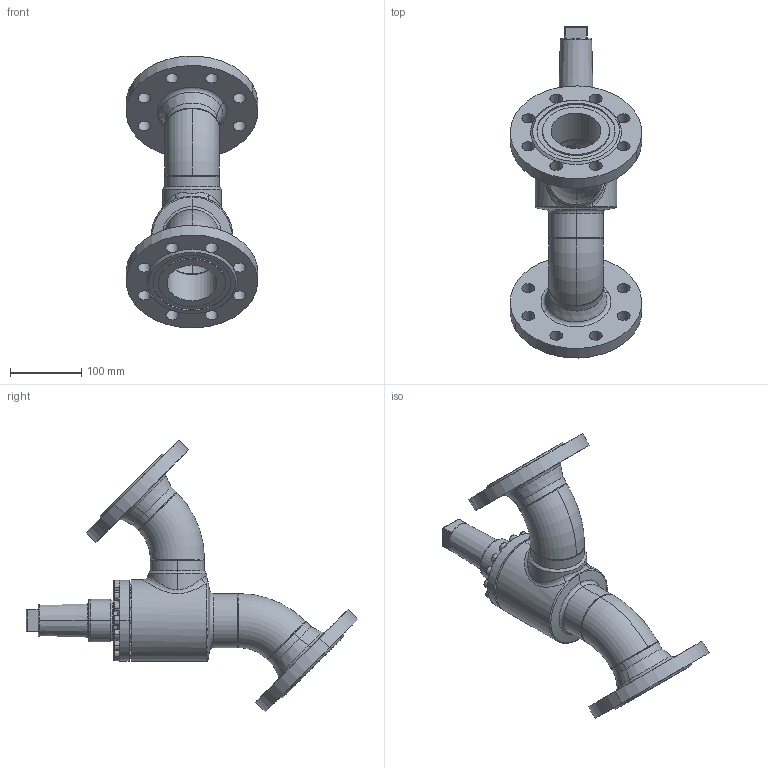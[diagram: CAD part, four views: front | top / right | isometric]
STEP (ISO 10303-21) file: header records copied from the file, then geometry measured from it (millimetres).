
FILE_DESCRIPTION (( 'STEP AP214' ), '1' );
FILE_NAME ('HRAR22320D17-DN065_DIN-FL-N_PS40.STEP', '2006-04-27T12:56:56', ( 'Herr Grams' ), ( 'AWP GmbH' ), 'SwSTEP 2.0', 'SolidWorks 2002296', '' );
FILE_SCHEMA (( 'AUTOMOTIVE_DESIGN' ));
Length unit declared in the file: millimetre
Products named in the file (14): HRAR22320D17-DN065_DIN-FL-N_PS40; Kappe16402_DN040-65_Standard; AVR26300K17_Deck+Schr-DN65_Standard; Deckel26300K17-DN65_Standard; Zylinderschraube-DIN912_M 8x 25; Gehäuse-kpl16320-DN065_DIN_PS40_Standard; Gehäuse-kpl16300-DN065_R1_Standard; Gehäuse16400-DN065_Standard; Rohrbogen 45°_Rohrbogen-DN065-45°; bead-DN065-2_Standard; bead-DN065-3_Standard; Flansch-DIN-Nut_PS40_DIN-Flansch-DN065_PS40-Nut; bead-DN065-6_Standard; bead-DN065-7_Standard
Assembly tree (30 placements, depth 4):
  HRAR22320D17-DN065_DIN-FL-N_PS40
    Kappe16402_DN040-65_Standard
    Gehäuse-kpl16320-DN065_DIN_PS40_Standard
      Flansch-DIN-Nut_PS40_DIN-Flansch-DN065_PS40-Nut  x2
      bead-DN065-6_Standard
      Gehäuse-kpl16300-DN065_R1_Standard
        Rohrbogen 45°_Rohrbogen-DN065-45°  x2
        bead-DN065-2_Standard
        Gehäuse16400-DN065_Standard
        bead-DN065-3_Standard
      bead-DN065-7_Standard
    AVR26300K17_Deck+Schr-DN65_Standard
      Zylinderschraube-DIN912_M 8x 25  x16
      Deckel26300K17-DN65_Standard
Bounding box: 184.82 x 466.88 x 382.4 mm (x, y, z)
Volume: 1930008 mm3; surface area: 455027.2 mm2
Topology: 27 solids, 27 shells, 558 faces, 1284 edges, 818 vertices
Faces by surface type: plane 215, cylinder 206, cone 60, torus 59, bspline 18
Entity records: 20118 total; most frequent: CARTESIAN_POINT 13359, DIRECTION 1322, ORIENTED_EDGE 1176, EDGE_CURVE 588, AXIS2_PLACEMENT_3D 572, VERTEX_POINT 376, EDGE_LOOP 320, CIRCLE 310
